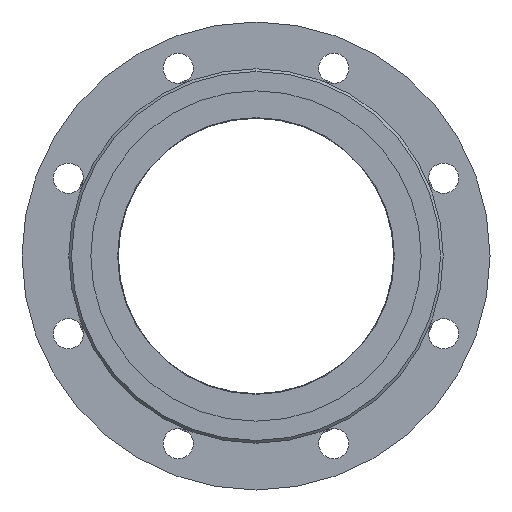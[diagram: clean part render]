
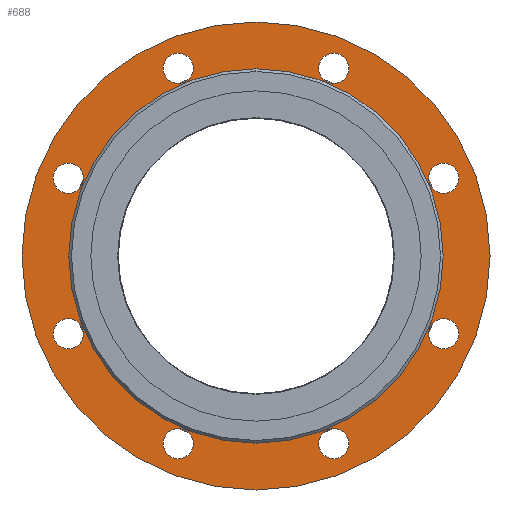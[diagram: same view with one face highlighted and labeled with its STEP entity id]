
A CAD part, left-side view. The second image highlights one B-rep face of the part: STEP entity #688.
In plain terms, the highlighted planar face has unit normal (-1, 0, 0).
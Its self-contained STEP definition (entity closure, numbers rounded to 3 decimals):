
#688=ADVANCED_FACE('',(#1362,#1363,#1364,#1365,#1366,#1367,#1368,#1369,#1370,#1371),#1372,.F.);
#1362=FACE_BOUND('',#2217,.T.);
#1363=FACE_BOUND('',#2218,.T.);
#1364=FACE_BOUND('',#2219,.T.);
#1365=FACE_BOUND('',#2220,.T.);
#1366=FACE_BOUND('',#2221,.T.);
#1367=FACE_BOUND('',#2222,.T.);
#1368=FACE_BOUND('',#2223,.T.);
#1369=FACE_BOUND('',#2224,.T.);
#1370=FACE_BOUND('',#2225,.T.);
#1371=FACE_OUTER_BOUND('',#2226,.T.);
#1372=PLANE('',#2227);
#2217=EDGE_LOOP('',(#3395,#3396));
#2218=EDGE_LOOP('',(#3397,#3398));
#2219=EDGE_LOOP('',(#3399,#3400));
#2220=EDGE_LOOP('',(#3401,#3402));
#2221=EDGE_LOOP('',(#3403,#3404));
#2222=EDGE_LOOP('',(#3405,#3406));
#2223=EDGE_LOOP('',(#3407,#3408));
#2224=EDGE_LOOP('',(#3409,#3410));
#2225=EDGE_LOOP('',(#3411,#3412));
#2226=EDGE_LOOP('',(#3413,#3414));
#2227=AXIS2_PLACEMENT_3D('',#3415,#3416,#3417);
#3395=ORIENTED_EDGE('',*,*,#4924,.T.);
#3396=ORIENTED_EDGE('',*,*,#4806,.T.);
#3397=ORIENTED_EDGE('',*,*,#4925,.T.);
#3398=ORIENTED_EDGE('',*,*,#4926,.T.);
#3399=ORIENTED_EDGE('',*,*,#4927,.T.);
#3400=ORIENTED_EDGE('',*,*,#4928,.T.);
#3401=ORIENTED_EDGE('',*,*,#4929,.T.);
#3402=ORIENTED_EDGE('',*,*,#4785,.T.);
#3403=ORIENTED_EDGE('',*,*,#4539,.T.);
#3404=ORIENTED_EDGE('',*,*,#4930,.T.);
#3405=ORIENTED_EDGE('',*,*,#4931,.T.);
#3406=ORIENTED_EDGE('',*,*,#4932,.T.);
#3407=ORIENTED_EDGE('',*,*,#4933,.T.);
#3408=ORIENTED_EDGE('',*,*,#4834,.T.);
#3409=ORIENTED_EDGE('',*,*,#4694,.T.);
#3410=ORIENTED_EDGE('',*,*,#4934,.T.);
#3411=ORIENTED_EDGE('',*,*,#4595,.T.);
#3412=ORIENTED_EDGE('',*,*,#4935,.T.);
#3413=ORIENTED_EDGE('',*,*,#4936,.F.);
#3414=ORIENTED_EDGE('',*,*,#4937,.F.);
#3415=CARTESIAN_POINT('',(5.0,0.0,0.));
#3416=DIRECTION('',(1.0,0.0,0.));
#3417=DIRECTION('',(0.,0.0,-1.0));
#4539=EDGE_CURVE('',#5289,#5293,#5295,.T.);
#4595=EDGE_CURVE('',#5388,#5392,#5394,.T.);
#4694=EDGE_CURVE('',#5557,#5561,#5563,.T.);
#4785=EDGE_CURVE('',#5706,#5704,#5707,.T.);
#4806=EDGE_CURVE('',#5734,#5738,#5740,.T.);
#4834=EDGE_CURVE('',#5781,#5779,#5782,.T.);
#4924=EDGE_CURVE('',#5738,#5734,#5912,.T.);
#4925=EDGE_CURVE('',#5913,#5914,#5915,.T.);
#4926=EDGE_CURVE('',#5914,#5913,#5916,.T.);
#4927=EDGE_CURVE('',#5917,#5918,#5919,.T.);
#4928=EDGE_CURVE('',#5918,#5917,#5920,.T.);
#4929=EDGE_CURVE('',#5704,#5706,#5921,.T.);
#4930=EDGE_CURVE('',#5293,#5289,#5922,.T.);
#4931=EDGE_CURVE('',#5923,#5924,#5925,.T.);
#4932=EDGE_CURVE('',#5924,#5923,#5926,.T.);
#4933=EDGE_CURVE('',#5779,#5781,#5927,.T.);
#4934=EDGE_CURVE('',#5561,#5557,#5928,.T.);
#4935=EDGE_CURVE('',#5392,#5388,#5929,.T.);
#4936=EDGE_CURVE('',#5930,#5931,#5932,.T.);
#4937=EDGE_CURVE('',#5931,#5930,#5933,.T.);
#5289=VERTEX_POINT('',#6358);
#5293=VERTEX_POINT('',#6363);
#5295=CIRCLE('',#6366,11.0);
#5388=VERTEX_POINT('',#6479);
#5392=VERTEX_POINT('',#6484);
#5394=CIRCLE('',#6487,11.0);
#5557=VERTEX_POINT('',#6700);
#5561=VERTEX_POINT('',#6705);
#5563=CIRCLE('',#6708,11.0);
#5704=VERTEX_POINT('',#6877);
#5706=VERTEX_POINT('',#6880);
#5707=CIRCLE('',#6881,11.0);
#5734=VERTEX_POINT('',#6916);
#5738=VERTEX_POINT('',#6921);
#5740=CIRCLE('',#6924,100.0);
#5779=VERTEX_POINT('',#6972);
#5781=VERTEX_POINT('',#6975);
#5782=CIRCLE('',#6976,11.0);
#5912=CIRCLE('',#7142,100.0);
#5913=VERTEX_POINT('',#7143);
#5914=VERTEX_POINT('',#7144);
#5915=CIRCLE('',#7145,11.0);
#5916=CIRCLE('',#7146,11.0);
#5917=VERTEX_POINT('',#7147);
#5918=VERTEX_POINT('',#7148);
#5919=CIRCLE('',#7149,11.0);
#5920=CIRCLE('',#7150,11.0);
#5921=CIRCLE('',#7151,11.0);
#5922=CIRCLE('',#7152,11.0);
#5923=VERTEX_POINT('',#7153);
#5924=VERTEX_POINT('',#7154);
#5925=CIRCLE('',#7155,11.0);
#5926=CIRCLE('',#7156,11.0);
#5927=CIRCLE('',#7157,11.0);
#5928=CIRCLE('',#7158,11.0);
#5929=CIRCLE('',#7159,11.0);
#5930=VERTEX_POINT('',#7160);
#5931=VERTEX_POINT('',#7161);
#5932=CIRCLE('',#7162,170.0);
#5933=CIRCLE('',#7163,170.0);
#6358=CARTESIAN_POINT('',(5.0,-56.446,125.272));
#6363=CARTESIAN_POINT('',(5.,-56.446,147.272));
#6366=AXIS2_PLACEMENT_3D('',#7653,#7654,#7655);
#6479=CARTESIAN_POINT('',(5.0,-56.446,-147.272));
#6484=CARTESIAN_POINT('',(5.,-56.446,-125.272));
#6487=AXIS2_PLACEMENT_3D('',#7744,#7745,#7746);
#6700=CARTESIAN_POINT('',(5.0,-136.272,-67.446));
#6705=CARTESIAN_POINT('',(5.0,-136.272,-45.446));
#6708=AXIS2_PLACEMENT_3D('',#7874,#7875,#7876);
#6877=CARTESIAN_POINT('',(5.0,-136.272,45.446));
#6880=CARTESIAN_POINT('',(5.,-136.272,67.446));
#6881=AXIS2_PLACEMENT_3D('',#8020,#8021,#8022);
#6916=CARTESIAN_POINT('',(5.,0.,-100.0));
#6921=CARTESIAN_POINT('',(5.,0.,100.0));
#6924=AXIS2_PLACEMENT_3D('',#8048,#8049,#8050);
#6972=CARTESIAN_POINT('',(5.0,56.446,-147.272));
#6975=CARTESIAN_POINT('',(5.,56.446,-125.272));
#6976=AXIS2_PLACEMENT_3D('',#8088,#8089,#8090);
#7142=AXIS2_PLACEMENT_3D('',#8214,#8215,#8216);
#7143=CARTESIAN_POINT('',(5.0,136.272,45.446));
#7144=CARTESIAN_POINT('',(5.,136.272,67.446));
#7145=AXIS2_PLACEMENT_3D('',#8217,#8218,#8219);
#7146=AXIS2_PLACEMENT_3D('',#8220,#8221,#8222);
#7147=CARTESIAN_POINT('',(5.0,56.446,125.272));
#7148=CARTESIAN_POINT('',(5.,56.446,147.272));
#7149=AXIS2_PLACEMENT_3D('',#8223,#8224,#8225);
#7150=AXIS2_PLACEMENT_3D('',#8226,#8227,#8228);
#7151=AXIS2_PLACEMENT_3D('',#8229,#8230,#8231);
#7152=AXIS2_PLACEMENT_3D('',#8232,#8233,#8234);
#7153=CARTESIAN_POINT('',(5.0,136.272,-67.446));
#7154=CARTESIAN_POINT('',(5.0,136.272,-45.446));
#7155=AXIS2_PLACEMENT_3D('',#8235,#8236,#8237);
#7156=AXIS2_PLACEMENT_3D('',#8238,#8239,#8240);
#7157=AXIS2_PLACEMENT_3D('',#8241,#8242,#8243);
#7158=AXIS2_PLACEMENT_3D('',#8244,#8245,#8246);
#7159=AXIS2_PLACEMENT_3D('',#8247,#8248,#8249);
#7160=CARTESIAN_POINT('',(5.,0.0,-170.0));
#7161=CARTESIAN_POINT('',(5.,0.,170.0));
#7162=AXIS2_PLACEMENT_3D('',#8250,#8251,#8252);
#7163=AXIS2_PLACEMENT_3D('',#8253,#8254,#8255);
#7653=CARTESIAN_POINT('',(5.,-56.446,136.272));
#7654=DIRECTION('',(1.0,0.0,0.));
#7655=DIRECTION('',(0.,0.0,-1.0));
#7744=CARTESIAN_POINT('',(5.,-56.446,-136.272));
#7745=DIRECTION('',(1.0,0.0,0.));
#7746=DIRECTION('',(0.,0.0,-1.0));
#7874=CARTESIAN_POINT('',(5.0,-136.272,-56.446));
#7875=DIRECTION('',(1.0,0.0,0.));
#7876=DIRECTION('',(0.,0.0,-1.0));
#8020=CARTESIAN_POINT('',(5.0,-136.272,56.446));
#8021=DIRECTION('',(1.0,0.0,0.));
#8022=DIRECTION('',(0.,0.0,-1.0));
#8048=CARTESIAN_POINT('',(5.0,0.0,0.));
#8049=DIRECTION('',(1.0,0.0,0.));
#8050=DIRECTION('',(0.,0.0,-1.0));
#8088=CARTESIAN_POINT('',(5.,56.446,-136.272));
#8089=DIRECTION('',(1.0,0.0,0.));
#8090=DIRECTION('',(0.,0.0,-1.0));
#8214=CARTESIAN_POINT('',(5.0,0.0,0.));
#8215=DIRECTION('',(1.0,0.0,0.));
#8216=DIRECTION('',(0.,0.0,-1.0));
#8217=CARTESIAN_POINT('',(5.0,136.272,56.446));
#8218=DIRECTION('',(1.0,0.0,0.));
#8219=DIRECTION('',(0.,0.0,-1.0));
#8220=CARTESIAN_POINT('',(5.0,136.272,56.446));
#8221=DIRECTION('',(1.0,0.0,0.));
#8222=DIRECTION('',(0.,0.0,-1.0));
#8223=CARTESIAN_POINT('',(5.,56.446,136.272));
#8224=DIRECTION('',(1.0,0.0,0.));
#8225=DIRECTION('',(0.,0.0,-1.0));
#8226=CARTESIAN_POINT('',(5.,56.446,136.272));
#8227=DIRECTION('',(1.0,0.0,0.));
#8228=DIRECTION('',(0.,0.0,-1.0));
#8229=CARTESIAN_POINT('',(5.0,-136.272,56.446));
#8230=DIRECTION('',(1.0,0.0,0.));
#8231=DIRECTION('',(0.,0.0,-1.0));
#8232=CARTESIAN_POINT('',(5.,-56.446,136.272));
#8233=DIRECTION('',(1.0,0.0,0.));
#8234=DIRECTION('',(0.,0.0,-1.0));
#8235=CARTESIAN_POINT('',(5.0,136.272,-56.446));
#8236=DIRECTION('',(1.0,0.0,0.));
#8237=DIRECTION('',(0.,0.0,-1.0));
#8238=CARTESIAN_POINT('',(5.0,136.272,-56.446));
#8239=DIRECTION('',(1.0,0.0,0.));
#8240=DIRECTION('',(0.,0.0,-1.0));
#8241=CARTESIAN_POINT('',(5.,56.446,-136.272));
#8242=DIRECTION('',(1.0,0.0,0.));
#8243=DIRECTION('',(0.,0.0,-1.0));
#8244=CARTESIAN_POINT('',(5.0,-136.272,-56.446));
#8245=DIRECTION('',(1.0,0.0,0.));
#8246=DIRECTION('',(0.,0.0,-1.0));
#8247=CARTESIAN_POINT('',(5.,-56.446,-136.272));
#8248=DIRECTION('',(1.0,0.0,0.));
#8249=DIRECTION('',(0.,0.0,-1.0));
#8250=CARTESIAN_POINT('',(5.0,0.0,0.));
#8251=DIRECTION('',(1.0,0.0,0.));
#8252=DIRECTION('',(0.,0.0,-1.0));
#8253=CARTESIAN_POINT('',(5.0,0.0,0.));
#8254=DIRECTION('',(1.0,0.0,0.));
#8255=DIRECTION('',(0.,0.0,-1.0));
